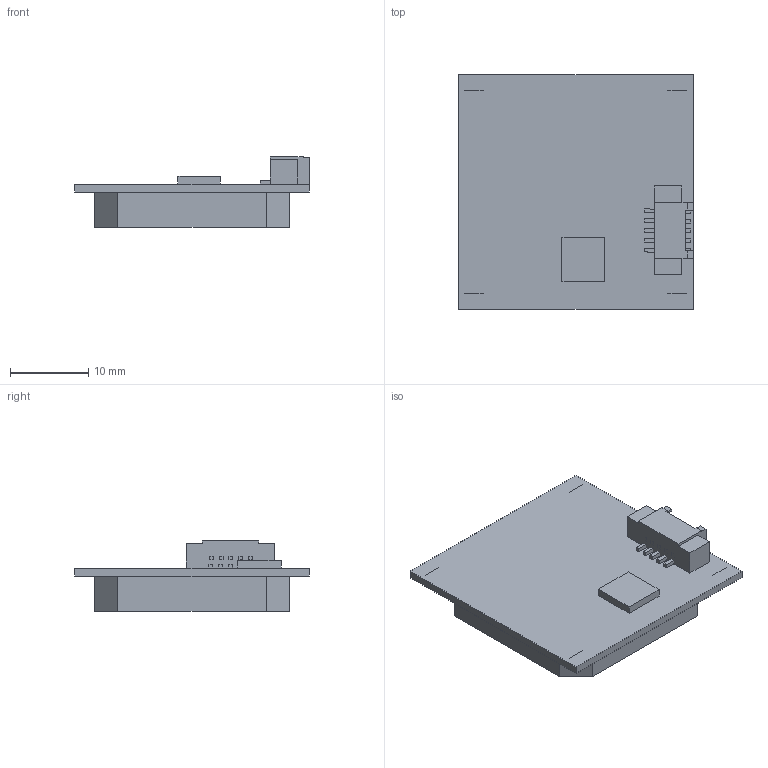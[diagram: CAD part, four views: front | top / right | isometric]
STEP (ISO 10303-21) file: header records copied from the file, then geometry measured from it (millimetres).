
FILE_DESCRIPTION(/* description */ (''),/* implementation_level */ '2;1');
FILE_NAME(/* name */ 'UCM601C-3d',/* time_stamp */ '2023-04-06T12:32:17+08:00',/* author */ (''),/* organization */ (''),/* preprocessor_version */ 'ST-DEVELOPER v16.5',/* originating_system */ '',/* authorisation */ '');
FILE_SCHEMA (('CONFIG_CONTROL_DESIGN'));
Length unit declared in the file: millimetre
Products named in the file (1): Document
Bounding box: 30 x 30 x 9 mm (x, y, z)
Volume: 3699.7 mm3; surface area: 4008.4 mm2
Topology: 13 solids, 16 shells, 115 faces, 671 edges, 646 vertices
Faces by surface type: plane 101, cylinder 12, bspline 2
Entity records: 6808 total; most frequent: CARTESIAN_POINT 4378, B_SPLINE_CURVE_WITH_KNOTS 560, ORIENTED_EDGE 520, EDGE_CURVE 266, VERTEX_POINT 180, DIRECTION 144, EDGE_LOOP 123, AXIS2_PLACEMENT_3D 117
